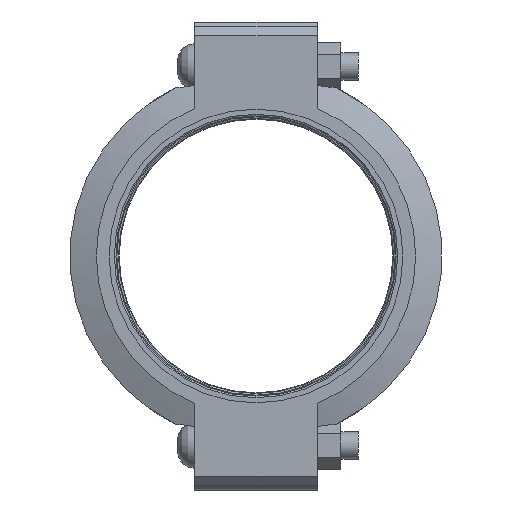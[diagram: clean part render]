
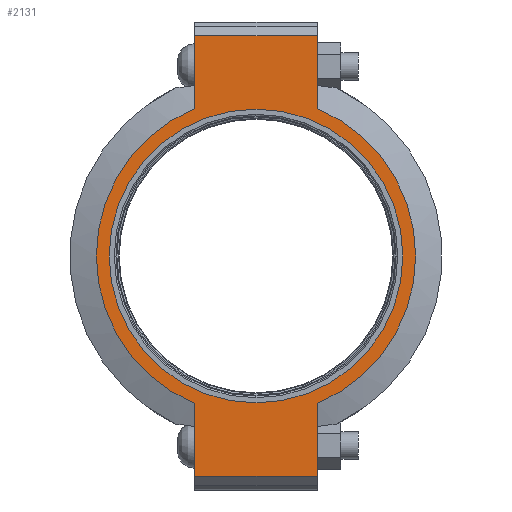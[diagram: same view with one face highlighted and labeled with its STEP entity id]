
A CAD part, left-side view. The second image highlights one B-rep face of the part: STEP entity #2131.
In plain terms, the highlighted planar face has unit normal (-1, 0, 0) as drawn and (0, 0, 1) by its records, which use the part's own axes.
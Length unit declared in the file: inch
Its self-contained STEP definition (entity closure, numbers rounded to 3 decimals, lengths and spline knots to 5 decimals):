
#184=LINE('',#3773,#279);
#195=LINE('',#3824,#290);
#201=LINE('',#3850,#296);
#203=LINE('',#3853,#298);
#204=LINE('',#3858,#299);
#205=LINE('',#3859,#300);
#279=VECTOR('',#3090,0.3937);
#290=VECTOR('',#3121,0.3937);
#296=VECTOR('',#3139,0.3937);
#298=VECTOR('',#3143,0.3937);
#299=VECTOR('',#3148,0.3937);
#300=VECTOR('',#3149,0.3937);
#367=FACE_BOUND('',#640,.T.);
#412=PLANE('',#2503);
#507=FACE_OUTER_BOUND('',#639,.T.);
#639=EDGE_LOOP('',(#1812,#1813,#1814,#1815,#1816,#1817,#1818,#1819));
#640=EDGE_LOOP('',(#1820));
#801=CIRCLE('',#2452,5.375);
#825=CIRCLE('',#2504,5.845);
#826=CIRCLE('',#2505,5.845);
#960=VERTEX_POINT('',#3599);
#1001=VERTEX_POINT('',#3770);
#1002=VERTEX_POINT('',#3772);
#1019=VERTEX_POINT('',#3819);
#1020=VERTEX_POINT('',#3823);
#1027=VERTEX_POINT('',#3845);
#1028=VERTEX_POINT('',#3849);
#1029=VERTEX_POINT('',#3855);
#1030=VERTEX_POINT('',#3857);
#1209=EDGE_CURVE('',#960,#960,#801,.T.);
#1266=EDGE_CURVE('',#1002,#1001,#184,.T.);
#1287=EDGE_CURVE('',#1020,#1019,#195,.T.);
#1298=EDGE_CURVE('',#1028,#1027,#201,.T.);
#1300=EDGE_CURVE('',#1028,#1001,#203,.T.);
#1301=EDGE_CURVE('',#1027,#1029,#825,.T.);
#1302=EDGE_CURVE('',#1029,#1030,#204,.T.);
#1303=EDGE_CURVE('',#1020,#1030,#205,.T.);
#1304=EDGE_CURVE('',#1019,#1002,#826,.T.);
#1812=ORIENTED_EDGE('',*,*,#1300,.F.);
#1813=ORIENTED_EDGE('',*,*,#1298,.T.);
#1814=ORIENTED_EDGE('',*,*,#1301,.T.);
#1815=ORIENTED_EDGE('',*,*,#1302,.T.);
#1816=ORIENTED_EDGE('',*,*,#1303,.F.);
#1817=ORIENTED_EDGE('',*,*,#1287,.T.);
#1818=ORIENTED_EDGE('',*,*,#1304,.T.);
#1819=ORIENTED_EDGE('',*,*,#1266,.T.);
#1820=ORIENTED_EDGE('',*,*,#1209,.T.);
#2131=ADVANCED_FACE('',(#507,#367),#412,.T.);
#2452=AXIS2_PLACEMENT_3D('',#3601,#2980,#2981);
#2503=AXIS2_PLACEMENT_3D('',#3854,#3144,#3145);
#2504=AXIS2_PLACEMENT_3D('',#3856,#3146,#3147);
#2505=AXIS2_PLACEMENT_3D('',#3860,#3150,#3151);
#2980=DIRECTION('center_axis',(0.,0.,-1.));
#2981=DIRECTION('ref_axis',(1.,0.,0.));
#3090=DIRECTION('',(1.,0.,0.));
#3121=DIRECTION('',(1.,0.,0.));
#3139=DIRECTION('',(-1.,0.,0.));
#3143=DIRECTION('',(0.,-1.,0.));
#3144=DIRECTION('center_axis',(0.,0.,1.));
#3145=DIRECTION('ref_axis',(-1.,0.,0.));
#3146=DIRECTION('center_axis',(0.,0.,1.));
#3147=DIRECTION('ref_axis',(1.,0.,0.));
#3148=DIRECTION('',(-1.,0.,0.));
#3149=DIRECTION('',(0.,1.,0.));
#3150=DIRECTION('center_axis',(0.,0.,1.));
#3151=DIRECTION('ref_axis',(1.,0.,0.));
#3599=CARTESIAN_POINT('',(-5.375,0.,1.315));
#3601=CARTESIAN_POINT('Origin',(0.,0.,1.315));
#3770=CARTESIAN_POINT('',(8.065,-2.25,1.315));
#3772=CARTESIAN_POINT('',(5.39458,-2.25,1.315));
#3773=CARTESIAN_POINT('',(-8.565,-2.25,1.315));
#3819=CARTESIAN_POINT('',(-5.39458,-2.25,1.315));
#3823=CARTESIAN_POINT('',(-8.065,-2.25,1.315));
#3824=CARTESIAN_POINT('',(-8.565,-2.25,1.315));
#3845=CARTESIAN_POINT('',(5.39458,2.25,1.315));
#3849=CARTESIAN_POINT('',(8.065,2.25,1.315));
#3850=CARTESIAN_POINT('',(8.565,2.25,1.315));
#3853=CARTESIAN_POINT('',(8.065,-1.125,1.315));
#3854=CARTESIAN_POINT('Origin',(0.,0.,
1.315));
#3855=CARTESIAN_POINT('',(-5.39458,2.25,1.315));
#3856=CARTESIAN_POINT('Origin',(0.,0.,1.315));
#3857=CARTESIAN_POINT('',(-8.065,2.25,1.315));
#3858=CARTESIAN_POINT('',(8.565,2.25,1.315));
#3859=CARTESIAN_POINT('',(-8.065,1.125,1.315));
#3860=CARTESIAN_POINT('Origin',(0.,0.,1.315));
